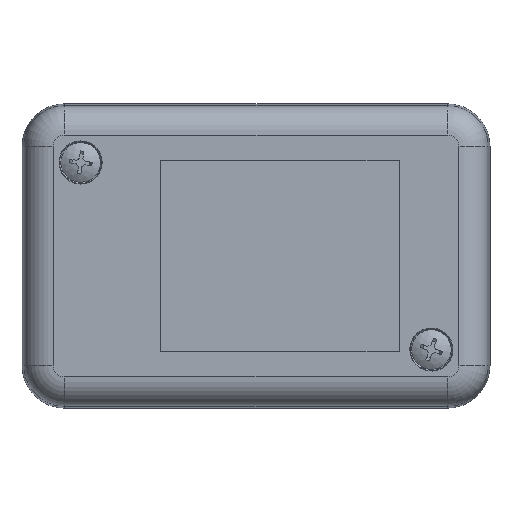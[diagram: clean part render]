
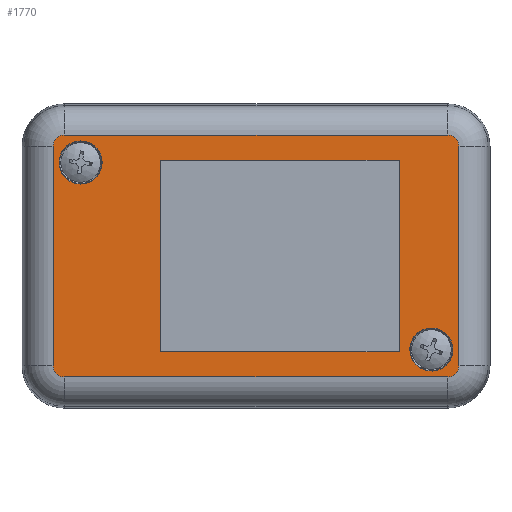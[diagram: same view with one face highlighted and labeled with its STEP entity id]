
A CAD part, front view. The second image highlights one B-rep face of the part: STEP entity #1770.
In plain terms, the highlighted planar face has unit normal (0, -1, 0).
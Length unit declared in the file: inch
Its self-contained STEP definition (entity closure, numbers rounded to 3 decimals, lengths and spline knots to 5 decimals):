
#51 = VERTEX_POINT ( 'NONE', #5684 ) ;
#65 = LINE ( 'NONE', #4854, #1157 ) ;
#124 = CARTESIAN_POINT ( 'NONE',  ( 1.023, -0.355, -0.64686 ) ) ;
#212 = VECTOR ( 'NONE', #3412, 39.37008 ) ;
#217 = CARTESIAN_POINT ( 'NONE',  ( 0.765, -0.355, -0.513 ) ) ;
#244 = VERTEX_POINT ( 'NONE', #124 ) ;
#249 = LINE ( 'NONE', #5973, #4549 ) ;
#289 = CARTESIAN_POINT ( 'NONE',  ( 1.08436, -0.355, 0.5855 ) ) ;
#328 = DIRECTION ( 'NONE',  ( 1., 0., 0. ) ) ;
#424 = VERTEX_POINT ( 'NONE', #217 ) ;
#618 = FACE_OUTER_BOUND ( 'NONE', #4837, .T. ) ;
#722 = CIRCLE ( 'NONE', #5143, 0.06136 ) ;
#730 = VECTOR ( 'NONE', #3537, 39.37008 ) ;
#828 = LINE ( 'NONE', #289, #4884 ) ;
#845 = CARTESIAN_POINT ( 'NONE',  ( 1.023, -0.355, 0.5855 ) ) ;
#901 = VERTEX_POINT ( 'NONE', #1398 ) ;
#943 = CIRCLE ( 'NONE', #1633, 0.06136 ) ;
#987 = CARTESIAN_POINT ( 'NONE',  ( -1.023, -0.355, 0.5855 ) ) ;
#1070 = DIRECTION ( 'NONE',  ( 0., 0., 1. ) ) ;
#1133 = CARTESIAN_POINT ( 'NONE',  ( 1.023, -0.355, 0.5855 ) ) ;
#1157 = VECTOR ( 'NONE', #2005, 39.37008 ) ;
#1208 = CARTESIAN_POINT ( 'NONE',  ( -1.023, -0.355, -0.64686 ) ) ;
#1214 = EDGE_CURVE ( 'NONE', #5528, #2993, #3653, .T. ) ;
#1293 = ORIENTED_EDGE ( 'NONE', *, *, #4691, .T. ) ;
#1327 = EDGE_CURVE ( 'NONE', #901, #3256, #722, .T. ) ;
#1348 = ORIENTED_EDGE ( 'NONE', *, *, #1327, .T. ) ;
#1364 = ORIENTED_EDGE ( 'NONE', *, *, #2161, .F. ) ;
#1398 = CARTESIAN_POINT ( 'NONE',  ( -1.023, -0.355, 0.64686 ) ) ;
#1438 = EDGE_CURVE ( 'NONE', #4126, #2239, #249, .T. ) ;
#1444 = AXIS2_PLACEMENT_3D ( 'NONE', #1854, #5533, #4120 ) ;
#1482 = DIRECTION ( 'NONE',  ( 0., 0., 1. ) ) ;
#1599 = CARTESIAN_POINT ( 'NONE',  ( -1.08436, -0.355, -0.5855 ) ) ;
#1633 = AXIS2_PLACEMENT_3D ( 'NONE', #845, #4593, #2374 ) ;
#1663 = CARTESIAN_POINT ( 'NONE',  ( -0.511, -0.355, 0.513 ) ) ;
#1770 = ADVANCED_FACE ( 'NONE', ( #3405, #2546, #3433, #618 ), #3369, .F. ) ;
#1854 = CARTESIAN_POINT ( 'NONE',  ( 1.023, -0.355, -0.5855 ) ) ;
#1855 = ORIENTED_EDGE ( 'NONE', *, *, #4458, .F. ) ;
#1954 = DIRECTION ( 'NONE',  ( 0., 1., 0. ) ) ;
#1974 = DIRECTION ( 'NONE',  ( 0., 1., 0. ) ) ;
#2005 = DIRECTION ( 'NONE',  ( 1., 0., 0. ) ) ;
#2161 = EDGE_CURVE ( 'NONE', #424, #51, #3999, .T. ) ;
#2195 = DIRECTION ( 'NONE',  ( 0., 0., 1. ) ) ;
#2239 = VERTEX_POINT ( 'NONE', #2980 ) ;
#2290 = ORIENTED_EDGE ( 'NONE', *, *, #1214, .T. ) ;
#2366 = AXIS2_PLACEMENT_3D ( 'NONE', #2627, #5830, #3507 ) ;
#2374 = DIRECTION ( 'NONE',  ( 0., 0., 1. ) ) ;
#2413 = VERTEX_POINT ( 'NONE', #4359 ) ;
#2441 = AXIS2_PLACEMENT_3D ( 'NONE', #3705, #1974, #4327 ) ;
#2491 = EDGE_CURVE ( 'NONE', #2239, #424, #4058, .T. ) ;
#2546 = FACE_BOUND ( 'NONE', #3044, .T. ) ;
#2554 = EDGE_CURVE ( 'NONE', #4757, #3627, #828, .T. ) ;
#2627 = CARTESIAN_POINT ( 'NONE',  ( -0.9375, -0.355, 0.5 ) ) ;
#2651 = DIRECTION ( 'NONE',  ( 0., 0., -1. ) ) ;
#2661 = ORIENTED_EDGE ( 'NONE', *, *, #3074, .F. ) ;
#2736 = ORIENTED_EDGE ( 'NONE', *, *, #1438, .F. ) ;
#2863 = DIRECTION ( 'NONE',  ( 0., -1., 0. ) ) ;
#2942 = LINE ( 'NONE', #5246, #212 ) ;
#2968 = ORIENTED_EDGE ( 'NONE', *, *, #5610, .T. ) ;
#2980 = CARTESIAN_POINT ( 'NONE',  ( -0.511, -0.355, -0.513 ) ) ;
#2993 = VERTEX_POINT ( 'NONE', #1208 ) ;
#3044 = EDGE_LOOP ( 'NONE', ( #4531 ) ) ;
#3074 = EDGE_CURVE ( 'NONE', #2413, #2413, #4201, .T. ) ;
#3134 = DIRECTION ( 'NONE',  ( 0., 0., -1. ) ) ;
#3201 = EDGE_CURVE ( 'NONE', #3256, #5528, #4975, .T. ) ;
#3252 = CARTESIAN_POINT ( 'NONE',  ( 1.08436, -0.355, -0.5855 ) ) ;
#3256 = VERTEX_POINT ( 'NONE', #5027 ) ;
#3345 = VERTEX_POINT ( 'NONE', #4521 ) ;
#3369 = PLANE ( 'NONE',  #4555 ) ;
#3389 = VECTOR ( 'NONE', #5393, 39.37008 ) ;
#3405 = FACE_BOUND ( 'NONE', #4589, .T. ) ;
#3412 = DIRECTION ( 'NONE',  ( -1., 0., 0. ) ) ;
#3433 = FACE_BOUND ( 'NONE', #4560, .T. ) ;
#3507 = DIRECTION ( 'NONE',  ( 0., 0., -1. ) ) ;
#3537 = DIRECTION ( 'NONE',  ( -1., 0., 0. ) ) ;
#3540 = ORIENTED_EDGE ( 'NONE', *, *, #6065, .T. ) ;
#3591 = CARTESIAN_POINT ( 'NONE',  ( 0.8419, -0.355, -0.56413 ) ) ;
#3597 = ORIENTED_EDGE ( 'NONE', *, *, #2554, .T. ) ;
#3627 = VERTEX_POINT ( 'NONE', #5336 ) ;
#3653 = CIRCLE ( 'NONE', #4343, 0.06136 ) ;
#3705 = CARTESIAN_POINT ( 'NONE',  ( 0.9375, -0.355, -0.5 ) ) ;
#3968 = CARTESIAN_POINT ( 'NONE',  ( -1.08436, -0.355, -0.5855 ) ) ;
#3999 = LINE ( 'NONE', #5874, #3389 ) ;
#4050 = LINE ( 'NONE', #4952, #730 ) ;
#4058 = LINE ( 'NONE', #4554, #4291 ) ;
#4077 = CIRCLE ( 'NONE', #1444, 0.06136 ) ;
#4120 = DIRECTION ( 'NONE',  ( 0., 0., 1. ) ) ;
#4126 = VERTEX_POINT ( 'NONE', #1663 ) ;
#4140 = CARTESIAN_POINT ( 'NONE',  ( -1.023, -0.355, -0.5855 ) ) ;
#4201 = CIRCLE ( 'NONE', #2366, 0.11511 ) ;
#4291 = VECTOR ( 'NONE', #328, 39.37008 ) ;
#4327 = DIRECTION ( 'NONE',  ( -0.83, 0., -0.557 ) ) ;
#4343 = AXIS2_PLACEMENT_3D ( 'NONE', #4140, #5129, #1482 ) ;
#4359 = CARTESIAN_POINT ( 'NONE',  ( -0.9375, -0.355, 0.38489 ) ) ;
#4397 = ORIENTED_EDGE ( 'NONE', *, *, #3201, .T. ) ;
#4458 = EDGE_CURVE ( 'NONE', #51, #4126, #2942, .T. ) ;
#4463 = CIRCLE ( 'NONE', #2441, 0.11511 ) ;
#4521 = CARTESIAN_POINT ( 'NONE',  ( 1.023, -0.355, 0.64686 ) ) ;
#4531 = ORIENTED_EDGE ( 'NONE', *, *, #6032, .T. ) ;
#4549 = VECTOR ( 'NONE', #3134, 39.37008 ) ;
#4554 = CARTESIAN_POINT ( 'NONE',  ( -0.511, -0.355, -0.513 ) ) ;
#4555 = AXIS2_PLACEMENT_3D ( 'NONE', #1133, #1954, #1070 ) ;
#4560 = EDGE_LOOP ( 'NONE', ( #2661 ) ) ;
#4589 = EDGE_LOOP ( 'NONE', ( #4597, #2736, #1855, #1364 ) ) ;
#4593 = DIRECTION ( 'NONE',  ( 0., -1., 0. ) ) ;
#4597 = ORIENTED_EDGE ( 'NONE', *, *, #2491, .F. ) ;
#4663 = ORIENTED_EDGE ( 'NONE', *, *, #5952, .T. ) ;
#4691 = EDGE_CURVE ( 'NONE', #3627, #3345, #943, .T. ) ;
#4708 = VECTOR ( 'NONE', #2651, 39.37008 ) ;
#4757 = VERTEX_POINT ( 'NONE', #3252 ) ;
#4786 = DIRECTION ( 'NONE',  ( 0., 0., 1. ) ) ;
#4837 = EDGE_LOOP ( 'NONE', ( #4663, #1348, #4397, #2290, #3540, #2968, #3597, #1293 ) ) ;
#4854 = CARTESIAN_POINT ( 'NONE',  ( 1.023, -0.355, -0.64686 ) ) ;
#4884 = VECTOR ( 'NONE', #2195, 39.37008 ) ;
#4952 = CARTESIAN_POINT ( 'NONE',  ( -1.023, -0.355, 0.64686 ) ) ;
#4975 = LINE ( 'NONE', #1599, #4708 ) ;
#5027 = CARTESIAN_POINT ( 'NONE',  ( -1.08436, -0.355, 0.5855 ) ) ;
#5129 = DIRECTION ( 'NONE',  ( 0., -1., 0. ) ) ;
#5143 = AXIS2_PLACEMENT_3D ( 'NONE', #987, #2863, #4786 ) ;
#5246 = CARTESIAN_POINT ( 'NONE',  ( -0.511, -0.355, 0.513 ) ) ;
#5336 = CARTESIAN_POINT ( 'NONE',  ( 1.08436, -0.355, 0.5855 ) ) ;
#5393 = DIRECTION ( 'NONE',  ( 0., 0., 1. ) ) ;
#5528 = VERTEX_POINT ( 'NONE', #3968 ) ;
#5533 = DIRECTION ( 'NONE',  ( 0., -1., 0. ) ) ;
#5610 = EDGE_CURVE ( 'NONE', #244, #4757, #4077, .T. ) ;
#5684 = CARTESIAN_POINT ( 'NONE',  ( 0.765, -0.355, 0.513 ) ) ;
#5830 = DIRECTION ( 'NONE',  ( 0., -1., 0. ) ) ;
#5874 = CARTESIAN_POINT ( 'NONE',  ( 0.765, -0.355, -0.513 ) ) ;
#5917 = VERTEX_POINT ( 'NONE', #3591 ) ;
#5952 = EDGE_CURVE ( 'NONE', #3345, #901, #4050, .T. ) ;
#5973 = CARTESIAN_POINT ( 'NONE',  ( -0.511, -0.355, -0.513 ) ) ;
#6032 = EDGE_CURVE ( 'NONE', #5917, #5917, #4463, .T. ) ;
#6065 = EDGE_CURVE ( 'NONE', #2993, #244, #65, .T. ) ;
